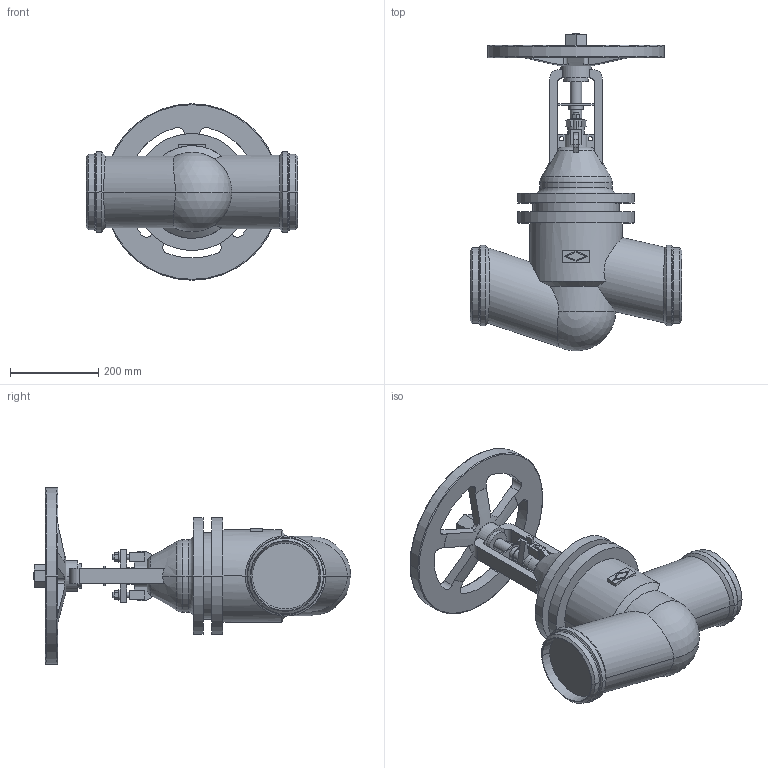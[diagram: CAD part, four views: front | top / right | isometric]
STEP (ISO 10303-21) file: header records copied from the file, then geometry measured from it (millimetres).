
FILE_DESCRIPTION(('OneSpaceDesigner STEP Export'),'2;1');
FILE_NAME('c000004330.stp','2010-05-06T10:47:52',(''),(''),'OneSpace Designer STEP processor for AP214 (Solid Model)','OneSpace Modeling 15.50B 03-Nov-2007 (C) CoCreate Software GmbH','');
FILE_SCHEMA(('AUTOMOTIVE_DESIGN { 1 0 10303 214 1 1 1 1 }'));
Length unit declared in the file: millimetre
Products named in the file (1): 1
Bounding box: 480 x 719.6 x 400 mm (x, y, z)
Volume: 21766435.9 mm3; surface area: 925904.4 mm2
Topology: 1 solids, 1 shells, 293 faces, 792 edges, 515 vertices
Faces by surface type: plane 142, cylinder 100, cone 26, torus 23, sphere 2
Entity records: 11956 total; most frequent: CARTESIAN_POINT 2667, ORIENTED_EDGE 1580, DIRECTION 1290, EDGE_CURVE 790, VERTEX_POINT 515, AXIS2_PLACEMENT_3D 442, VECTOR 406, LINE 406
